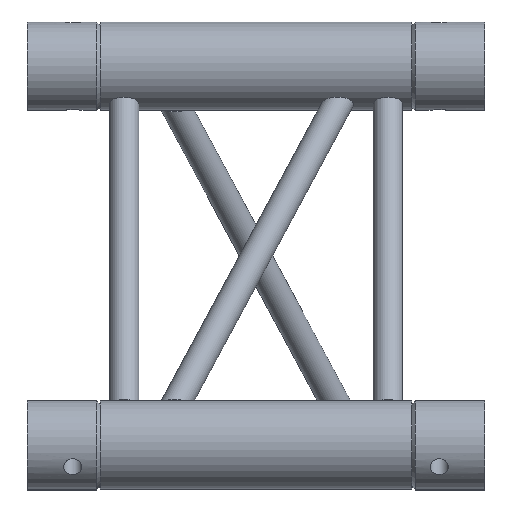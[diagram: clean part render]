
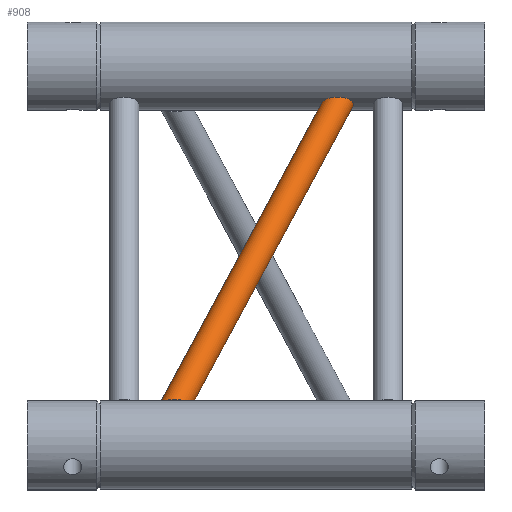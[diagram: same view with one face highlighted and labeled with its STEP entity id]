
A CAD part, top view. The second image highlights one B-rep face of the part: STEP entity #908.
In plain terms, the highlighted cylindrical face has radius 8 mm (diameter 16 mm), a full revolution.
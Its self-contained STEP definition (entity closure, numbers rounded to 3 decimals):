
#120=FACE_BOUND('',#282,.T.);
#180=CYLINDRICAL_SURFACE('',#989,8.);
#208=FACE_OUTER_BOUND('',#281,.T.);
#281=EDGE_LOOP('',(#587));
#282=EDGE_LOOP('',(#588));
#409=ELLIPSE('',#986,8.827,8.);
#410=ELLIPSE('',#988,8.827,8.);
#415=VERTEX_POINT('',#1381);
#416=VERTEX_POINT('',#1384);
#493=EDGE_CURVE('',#415,#415,#409,.T.);
#494=EDGE_CURVE('',#416,#416,#410,.T.);
#587=ORIENTED_EDGE('',*,*,#493,.T.);
#588=ORIENTED_EDGE('',*,*,#494,.T.);
#908=ADVANCED_FACE('',(#208,#120),#180,.T.);
#986=AXIS2_PLACEMENT_3D('',#1382,#1120,#1121);
#988=AXIS2_PLACEMENT_3D('',#1385,#1124,#1125);
#989=AXIS2_PLACEMENT_3D('',#1386,#1126,#1127);
#1120=DIRECTION('center_axis',(0.,-0.866,
0.5));
#1121=DIRECTION('ref_axis',(-1.,0.,0.));
#1124=DIRECTION('center_axis',(0.,0.866,-0.5));
#1125=DIRECTION('ref_axis',(-1.,0.,0.));
#1126=DIRECTION('center_axis',(-0.423,-0.785,0.453));
#1127=DIRECTION('ref_axis',(-0.906,0.366,-0.211));
#1381=CARTESIAN_POINT('',(178.286,186.06,-107.422));
#1382=CARTESIAN_POINT('Origin',(169.459,186.06,-107.422));
#1384=CARTESIAN_POINT('',(71.714,20.92,-12.078));
#1385=CARTESIAN_POINT('Origin',(80.541,20.92,-12.078));
#1386=CARTESIAN_POINT('Origin',(125.,103.49,-59.75));
